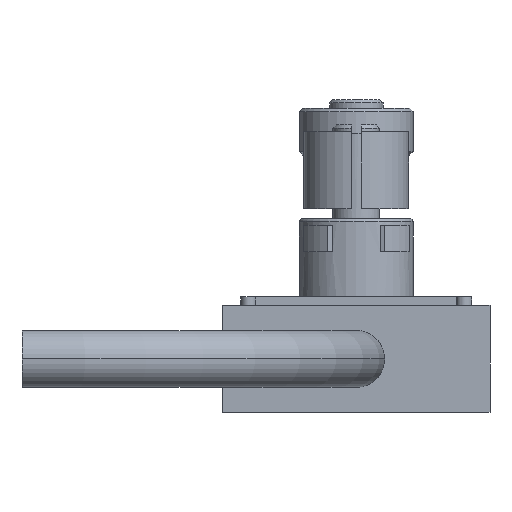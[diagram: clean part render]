
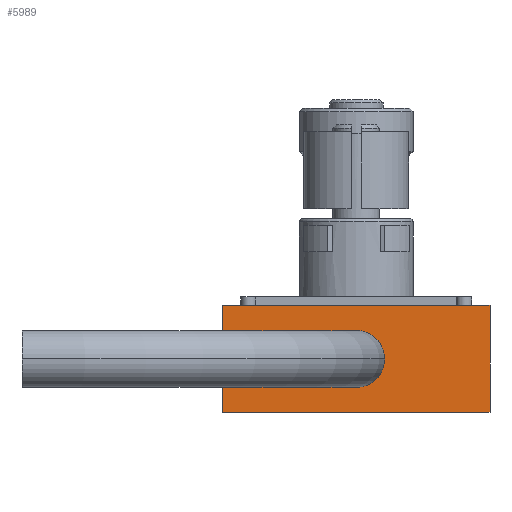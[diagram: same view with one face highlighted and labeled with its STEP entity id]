
A CAD part, front view. The second image highlights one B-rep face of the part: STEP entity #5989.
In plain terms, the highlighted planar face has unit normal (0, -1, 0).
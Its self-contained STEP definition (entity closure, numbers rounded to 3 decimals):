
#218 = PLANE ( 'NONE',  #5121 ) ;
#219 = CARTESIAN_POINT ( 'NONE',  ( 0., 0., 0. ) ) ;
#220 = DIRECTION ( 'NONE',  ( 0., -1., 0. ) ) ;
#221 = DIRECTION ( 'NONE',  ( 0., 0., -1. ) ) ;
#1039 = EDGE_CURVE ( 'NONE', #1405, #1406, #2857, .T. ) ;
#1044 = EDGE_CURVE ( 'NONE', #1409, #1410, #2872, .T. ) ;
#1092 = EDGE_CURVE ( 'NONE', #1410, #1405, #3016, .T. ) ;
#1093 = EDGE_CURVE ( 'NONE', #1406, #1409, #3019, .T. ) ;
#1094 = EDGE_CURVE ( 'NONE', #2474, #2524, #1220, .T. ) ;
#1220 = CIRCLE ( 'NONE', #6272, 4.25 ) ;
#1405 = VERTEX_POINT ( 'NONE', #3342 ) ;
#1406 = VERTEX_POINT ( 'NONE', #3343 ) ;
#1409 = VERTEX_POINT ( 'NONE', #3346 ) ;
#1410 = VERTEX_POINT ( 'NONE', #3347 ) ;
#2474 = VERTEX_POINT ( 'NONE', #3539 ) ;
#2524 = VERTEX_POINT ( 'NONE', #3589 ) ;
#2628 = EDGE_LOOP ( 'NONE', ( #6411, #6407, #6406, #6409 ) ) ;
#2630 = EDGE_LOOP ( 'NONE', ( #6410, #6408 ) ) ;
#2857 = LINE ( 'NONE', #2858, #6083 ) ;
#2858 = CARTESIAN_POINT ( 'NONE',  ( -20., 0., -8. ) ) ;
#2859 = DIRECTION ( 'NONE',  ( -1., 0., 0. ) ) ;
#2872 = LINE ( 'NONE', #2873, #6073 ) ;
#2873 = CARTESIAN_POINT ( 'NONE',  ( -20., 0., 8. ) ) ;
#2874 = DIRECTION ( 'NONE',  ( 1., 0., 0. ) ) ;
#2997 = CARTESIAN_POINT ( 'NONE',  ( 0., 0., 0. ) ) ;
#3016 = LINE ( 'NONE', #3017, #6248 ) ;
#3017 = CARTESIAN_POINT ( 'NONE',  ( 20., 0., 8. ) ) ;
#3018 = DIRECTION ( 'NONE',  ( 0., 0., -1. ) ) ;
#3019 = LINE ( 'NONE', #3020, #6244 ) ;
#3020 = CARTESIAN_POINT ( 'NONE',  ( -20., 0., 8. ) ) ;
#3021 = DIRECTION ( 'NONE',  ( 0., 0., 1. ) ) ;
#3022 = DIRECTION ( 'NONE',  ( 0., -1., 0. ) ) ;
#3023 = DIRECTION ( 'NONE',  ( 0., 0., -1. ) ) ;
#3342 = CARTESIAN_POINT ( 'NONE',  ( 20., 0., -8. ) ) ;
#3343 = CARTESIAN_POINT ( 'NONE',  ( -20., 0., -8. ) ) ;
#3346 = CARTESIAN_POINT ( 'NONE',  ( -20., 0., 8. ) ) ;
#3347 = CARTESIAN_POINT ( 'NONE',  ( 20., 0., 8. ) ) ;
#3539 = CARTESIAN_POINT ( 'NONE',  ( -4.25, 0., 0. ) ) ;
#3589 = CARTESIAN_POINT ( 'NONE',  ( 4.25, 0., 0. ) ) ;
#3912 = CARTESIAN_POINT ( 'NONE',  ( 0., 0., 0. ) ) ;
#3913 = DIRECTION ( 'NONE',  ( 0., -1., 0. ) ) ;
#3914 = DIRECTION ( 'NONE',  ( 0., 0., -1. ) ) ;
#5115 = FACE_BOUND ( 'NONE', #2630, .T. ) ;
#5117 = FACE_OUTER_BOUND ( 'NONE', #2628, .T. ) ;
#5121 = AXIS2_PLACEMENT_3D ( 'NONE', #219, #220, #221 ) ;
#5588 = EDGE_CURVE ( 'NONE', #2524, #2474, #6611, .T. ) ;
#5944 = AXIS2_PLACEMENT_3D ( 'NONE', #3912, #3913, #3914 ) ;
#5989 = ADVANCED_FACE ( 'NONE', ( #5115, #5117 ), #218, .T. ) ;
#6073 = VECTOR ( 'NONE', #2874, 1000. ) ;
#6083 = VECTOR ( 'NONE', #2859, 1000. ) ;
#6244 = VECTOR ( 'NONE', #3021, 1000. ) ;
#6248 = VECTOR ( 'NONE', #3018, 1000. ) ;
#6272 = AXIS2_PLACEMENT_3D ( 'NONE', #2997, #3022, #3023 ) ;
#6406 = ORIENTED_EDGE ( 'NONE', *, *, #1093, .F. ) ;
#6407 = ORIENTED_EDGE ( 'NONE', *, *, #1044, .F. ) ;
#6408 = ORIENTED_EDGE ( 'NONE', *, *, #5588, .F. ) ;
#6409 = ORIENTED_EDGE ( 'NONE', *, *, #1039, .F. ) ;
#6410 = ORIENTED_EDGE ( 'NONE', *, *, #1094, .F. ) ;
#6411 = ORIENTED_EDGE ( 'NONE', *, *, #1092, .F. ) ;
#6611 = CIRCLE ( 'NONE', #5944, 4.25 ) ;
